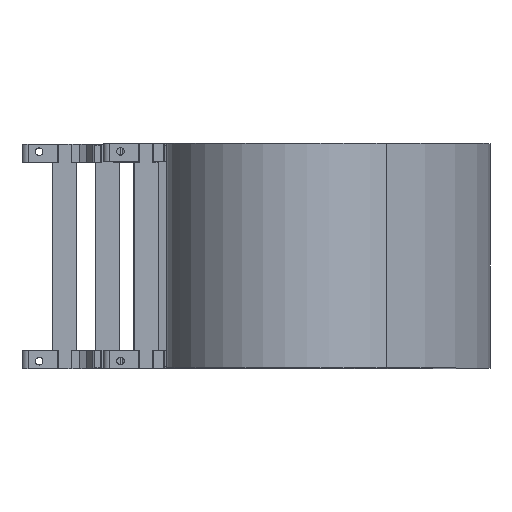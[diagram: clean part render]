
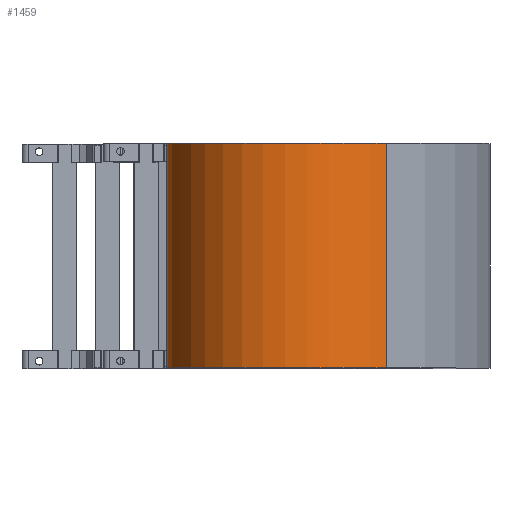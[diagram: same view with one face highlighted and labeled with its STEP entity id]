
A CAD part, top view. The second image highlights one B-rep face of the part: STEP entity #1459.
In plain terms, the highlighted cylindrical face has radius 85 mm (diameter 170 mm), a partial arc.
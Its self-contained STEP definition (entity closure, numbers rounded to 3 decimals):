
#1459 = ADVANCED_FACE( '', ( #2908 ), #2909, .T. );
#2908 = FACE_OUTER_BOUND( '', #4334, .T. );
#2909 = CYLINDRICAL_SURFACE( '', #4335, 85. );
#4334 = EDGE_LOOP( '', ( #8742, #8743, #8744, #8745 ) );
#4335 = AXIS2_PLACEMENT_3D( '', #8746, #8747, #8748 );
#8742 = ORIENTED_EDGE( '', *, *, #8983, .T. );
#8743 = ORIENTED_EDGE( '', *, *, #9734, .F. );
#8744 = ORIENTED_EDGE( '', *, *, #10618, .F. );
#8745 = ORIENTED_EDGE( '', *, *, #10560, .T. );
#8746 = CARTESIAN_POINT( '', ( 110.466, 74.5, 108.73 ) );
#8747 = DIRECTION( '', ( 0., 1., 0. ) );
#8748 = DIRECTION( '', ( 0., 0., -1. ) );
#8983 = EDGE_CURVE( '', #10882, #10880, #10883, .T. );
#9734 = EDGE_CURVE( '', #12157, #10880, #12159, .T. );
#10560 = EDGE_CURVE( '', #13229, #10882, #13230, .T. );
#10618 = EDGE_CURVE( '', #13229, #12157, #13288, .T. );
#10880 = VERTEX_POINT( '', #13637 );
#10882 = VERTEX_POINT( '', #13639 );
#10883 = CIRCLE( '', #13640, 85. );
#12157 = VERTEX_POINT( '', #15434 );
#12159 = LINE( '', #15436, #15437 );
#13229 = VERTEX_POINT( '', #16993 );
#13230 = LINE( '', #16994, #16995 );
#13288 = CIRCLE( '', #17066, 85. );
#13637 = CARTESIAN_POINT( '', ( 171.045, -74.5, 168.356 ) );
#13639 = CARTESIAN_POINT( '', ( 49.888, -74.5, 49.104 ) );
#13640 = AXIS2_PLACEMENT_3D( '', #17247, #17248, #17249 );
#15434 = CARTESIAN_POINT( '', ( 171.045, 74.5, 168.356 ) );
#15436 = CARTESIAN_POINT( '', ( 171.045, 74.5, 168.356 ) );
#15437 = VECTOR( '', #18109, 1000. );
#16993 = CARTESIAN_POINT( '', ( 49.888, 74.5, 49.104 ) );
#16994 = CARTESIAN_POINT( '', ( 49.888, 74.5, 49.104 ) );
#16995 = VECTOR( '', #18845, 1000. );
#17066 = AXIS2_PLACEMENT_3D( '', #18871, #18872, #18873 );
#17247 = CARTESIAN_POINT( '', ( 110.466, -74.5, 108.73 ) );
#17248 = DIRECTION( '', ( 0., 1., 0. ) );
#17249 = DIRECTION( '', ( 1., 0., 0. ) );
#18109 = DIRECTION( '', ( 0., -1., 0. ) );
#18845 = DIRECTION( '', ( 0., -1., 0. ) );
#18871 = CARTESIAN_POINT( '', ( 110.466, 74.5, 108.73 ) );
#18872 = DIRECTION( '', ( 0., 1., 0. ) );
#18873 = DIRECTION( '', ( 1., 0., 0. ) );
